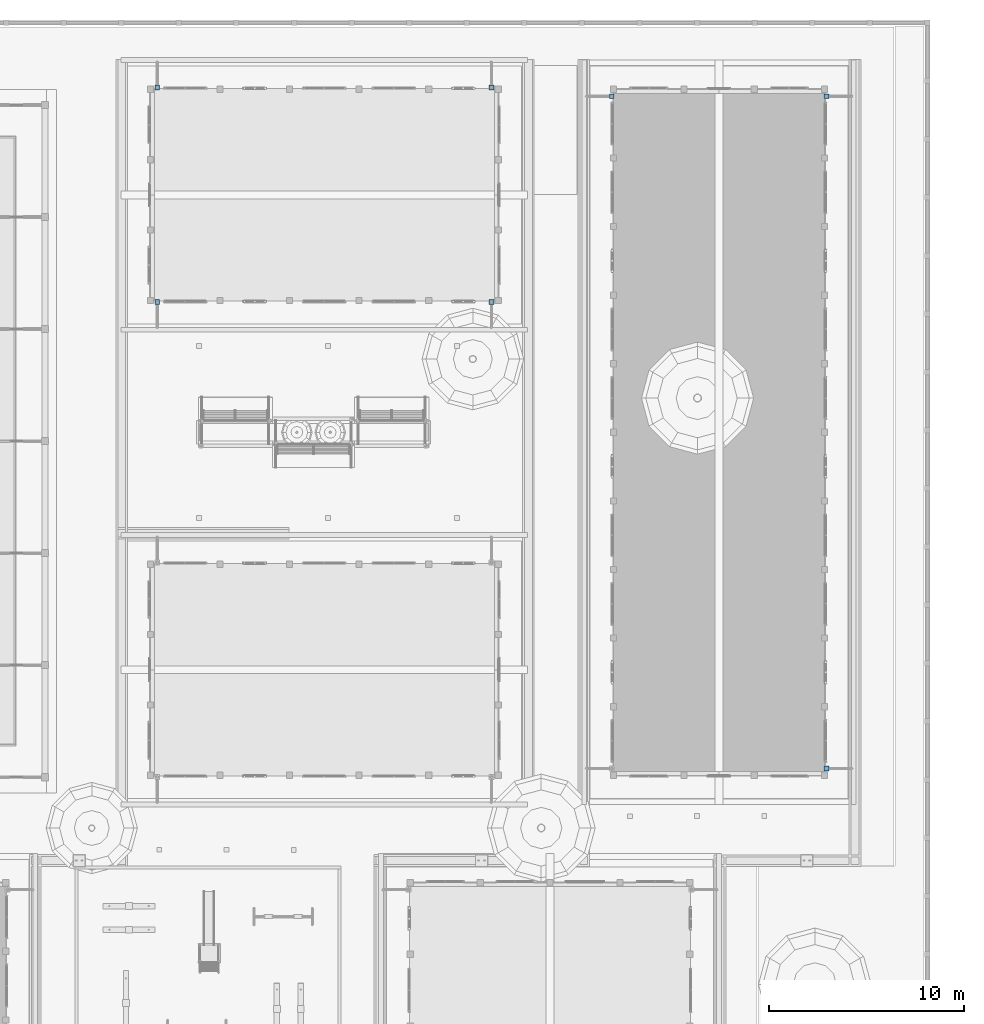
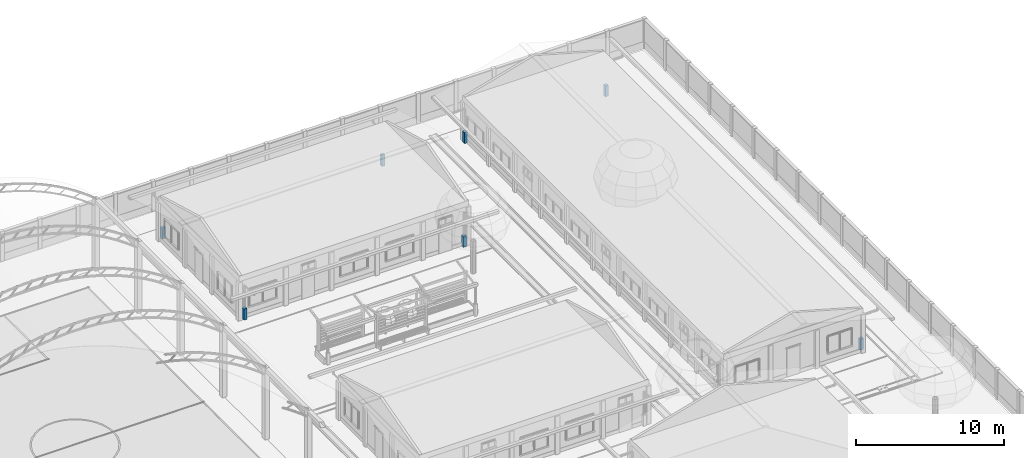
# One storey, part 14 of 177: 7 columns.
"""IFC4 building model written with IfcOpenShell, lengths in metres."""

from ifc_helpers import new_model, si_unit, origin, origin_with_axes, place, context, subcontext, project, spatial, triangles, element, save


model = new_model("IFC4")

# Units and contexts
model_context = context("Model", 3, precision=1e-05, world=origin_with_axes())
body_context = subcontext(model_context, "Body", "Model", "MODEL_VIEW")
ifc_project = project(units=[si_unit("LENGTHUNIT", "METRE"), si_unit("AREAUNIT", "SQUARE_METRE"), si_unit("VOLUMEUNIT", "CUBIC_METRE"), si_unit("PLANEANGLEUNIT", "RADIAN")], contexts=[model_context])

# Site, building, storey
site_placement = place(None, origin_with_axes())
site = spatial("IfcSite", under=ifc_project, at=site_placement, Name="Predio Los Mangos - Morales, San Martín", CompositionType="ELEMENT")
building_placement = place(site_placement, origin())
building = spatial("IfcBuilding", under=site, at=building_placement, Name="Hogar de Refugio Temporal", CompositionType="ELEMENT")
storey_placement = place(building_placement, origin())
storey = spatial("IfcBuildingStorey", under=building, at=storey_placement, Name="NIVEL 1 (NPT +0.00)", CompositionType="ELEMENT", Elevation=0.0)

# Columns
column_1_placement = place(storey_placement, origin())
element("IfcColumn", 1, at=column_1_placement, inside=storey, Name="falsa_columna", ObjectType="Falsa columna", PredefinedType="COLUMN", context=body_context, shape_type="Tessellation", body=[
    triangles([(32.225, 116.785, 0.15), (32.475, 116.785, 0.15), (32.475, 117.035, 0.15), (32.225, 117.035, 0.15), (32.225, 116.785, 1.05), (32.475, 116.785, 1.05), (32.475, 117.035, 1.05), (32.225, 117.035, 1.05)], [[1, 4, 3], [1, 3, 2], [5, 6, 7], [5, 7, 8], [1, 2, 6], [1, 6, 5], [2, 3, 7], [2, 7, 6], [3, 4, 8], [3, 8, 7], [4, 1, 5], [4, 5, 8]]),
])
column_2_placement = place(storey_placement, origin())
element("IfcColumn", 2, at=column_2_placement, inside=storey, Name="falsa_columna", ObjectType="Falsa columna", PredefinedType="COLUMN", context=body_context, shape_type="Tessellation", body=[
    triangles([(49.325, 116.785, 0.15), (49.575, 116.785, 0.15), (49.575, 117.035, 0.15), (49.325, 117.035, 0.15), (49.325, 116.785, 1.05), (49.575, 116.785, 1.05), (49.575, 117.035, 1.05), (49.325, 117.035, 1.05)], [[1, 4, 3], [1, 3, 2], [5, 6, 7], [5, 7, 8], [1, 2, 6], [1, 6, 5], [2, 3, 7], [2, 7, 6], [3, 4, 8], [3, 8, 7], [4, 1, 5], [4, 5, 8]]),
])
column_3_placement = place(storey_placement, origin())
element("IfcColumn", 3, at=column_3_placement, inside=storey, Name="falsa_columna", ObjectType="Falsa columna", PredefinedType="COLUMN", context=body_context, shape_type="Tessellation", body=[
    triangles([(32.225, 127.765, 0.15), (32.475, 127.765, 0.15), (32.475, 128.015, 0.15), (32.225, 128.015, 0.15), (32.225, 127.765, 1.05), (32.475, 127.765, 1.05), (32.475, 128.015, 1.05), (32.225, 128.015, 1.05)], [[1, 4, 3], [1, 3, 2], [5, 6, 7], [5, 7, 8], [1, 2, 6], [1, 6, 5], [2, 3, 7], [2, 7, 6], [3, 4, 8], [3, 8, 7], [4, 1, 5], [4, 5, 8]]),
])
column_4_placement = place(storey_placement, origin())
element("IfcColumn", 4, at=column_4_placement, inside=storey, Name="falsa_columna", ObjectType="Falsa columna", PredefinedType="COLUMN", context=body_context, shape_type="Tessellation", body=[
    triangles([(49.325, 127.765, 0.15), (49.575, 127.765, 0.15), (49.575, 128.015, 0.15), (49.325, 128.015, 0.15), (49.325, 127.765, 1.05), (49.575, 127.765, 1.05), (49.575, 128.015, 1.05), (49.325, 128.015, 1.05)], [[1, 4, 3], [1, 3, 2], [5, 6, 7], [5, 7, 8], [1, 2, 6], [1, 6, 5], [2, 3, 7], [2, 7, 6], [3, 4, 8], [3, 8, 7], [4, 1, 5], [4, 5, 8]]),
])
column_5_placement = place(storey_placement, origin())
element("IfcColumn", 5, at=column_5_placement, inside=storey, Name="falsa_columna", ObjectType="Falsa columna", PredefinedType="COLUMN", context=body_context, shape_type="Tessellation", body=[
    triangles([(55.485, 127.325, 0.15), (55.735, 127.325, 0.15), (55.735, 127.575, 0.15), (55.485, 127.575, 0.15), (55.485, 127.325, 1.05), (55.735, 127.325, 1.05), (55.735, 127.575, 1.05), (55.485, 127.575, 1.05)], [[1, 4, 3], [1, 3, 2], [5, 6, 7], [5, 7, 8], [1, 2, 6], [1, 6, 5], [2, 3, 7], [2, 7, 6], [3, 4, 8], [3, 8, 7], [4, 1, 5], [4, 5, 8]]),
])
column_6_placement = place(storey_placement, origin())
element("IfcColumn", 6, at=column_6_placement, inside=storey, Name="falsa_columna", ObjectType="Falsa columna", PredefinedType="COLUMN", context=body_context, shape_type="Tessellation", body=[
    triangles([(66.465, 92.925, 0.15), (66.715, 92.925, 0.15), (66.715, 93.175, 0.15), (66.465, 93.175, 0.15), (66.465, 92.925, 1.05), (66.715, 92.925, 1.05), (66.715, 93.175, 1.05), (66.465, 93.175, 1.05)], [[1, 4, 3], [1, 3, 2], [5, 6, 7], [5, 7, 8], [1, 2, 6], [1, 6, 5], [2, 3, 7], [2, 7, 6], [3, 4, 8], [3, 8, 7], [4, 1, 5], [4, 5, 8]]),
])
column_7_placement = place(storey_placement, origin())
element("IfcColumn", 7, at=column_7_placement, inside=storey, Name="falsa_columna", ObjectType="Falsa columna", PredefinedType="COLUMN", context=body_context, shape_type="Tessellation", body=[
    triangles([(66.465, 127.325, 0.15), (66.715, 127.325, 0.15), (66.715, 127.575, 0.15), (66.465, 127.575, 0.15), (66.465, 127.325, 1.05), (66.715, 127.325, 1.05), (66.715, 127.575, 1.05), (66.465, 127.575, 1.05)], [[1, 4, 3], [1, 3, 2], [5, 6, 7], [5, 7, 8], [1, 2, 6], [1, 6, 5], [2, 3, 7], [2, 7, 6], [3, 4, 8], [3, 8, 7], [4, 1, 5], [4, 5, 8]]),
])

save(model, "model.ifc")
